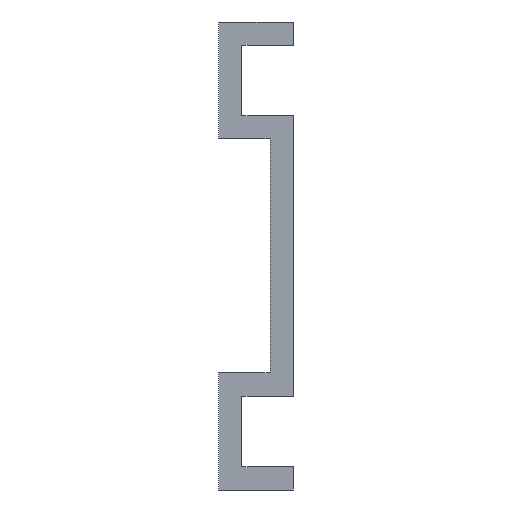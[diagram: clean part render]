
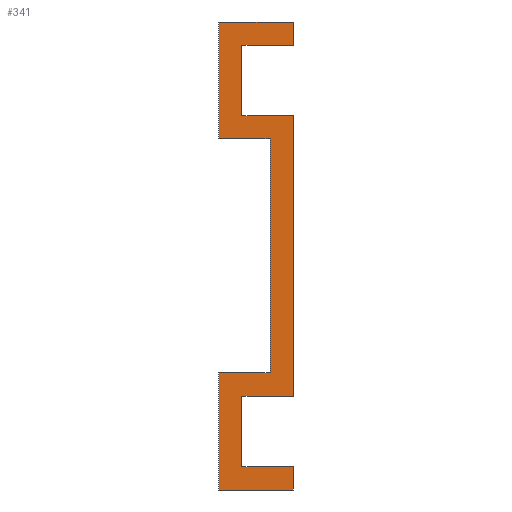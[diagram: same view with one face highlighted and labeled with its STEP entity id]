
A CAD part, left-side view. The second image highlights one B-rep face of the part: STEP entity #341.
In plain terms, the highlighted planar face has unit normal (-1, 0, 0).
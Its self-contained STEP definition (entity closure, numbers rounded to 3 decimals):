
#15=FACE_OUTER_BOUND('',#33,.T.);
#33=EDGE_LOOP('',(#227,#228,#229,#230,#231,#232,#233,#234,#235,#236,#237,
#238,#239,#240,#241,#242));
#51=LINE('',#490,#99);
#52=LINE('',#492,#100);
#53=LINE('',#494,#101);
#54=LINE('',#496,#102);
#55=LINE('',#498,#103);
#56=LINE('',#500,#104);
#57=LINE('',#502,#105);
#58=LINE('',#504,#106);
#59=LINE('',#506,#107);
#60=LINE('',#508,#108);
#61=LINE('',#510,#109);
#62=LINE('',#512,#110);
#63=LINE('',#514,#111);
#64=LINE('',#516,#112);
#65=LINE('',#518,#113);
#66=LINE('',#519,#114);
#99=VECTOR('',#404,10.);
#100=VECTOR('',#405,10.);
#101=VECTOR('',#406,10.);
#102=VECTOR('',#407,10.);
#103=VECTOR('',#408,10.);
#104=VECTOR('',#409,10.);
#105=VECTOR('',#410,10.);
#106=VECTOR('',#411,10.);
#107=VECTOR('',#412,10.);
#108=VECTOR('',#413,10.);
#109=VECTOR('',#414,10.);
#110=VECTOR('',#415,10.);
#111=VECTOR('',#416,10.);
#112=VECTOR('',#417,10.);
#113=VECTOR('',#418,10.);
#114=VECTOR('',#419,10.);
#147=VERTEX_POINT('',#488);
#148=VERTEX_POINT('',#489);
#149=VERTEX_POINT('',#491);
#150=VERTEX_POINT('',#493);
#151=VERTEX_POINT('',#495);
#152=VERTEX_POINT('',#497);
#153=VERTEX_POINT('',#499);
#154=VERTEX_POINT('',#501);
#155=VERTEX_POINT('',#503);
#156=VERTEX_POINT('',#505);
#157=VERTEX_POINT('',#507);
#158=VERTEX_POINT('',#509);
#159=VERTEX_POINT('',#511);
#160=VERTEX_POINT('',#513);
#161=VERTEX_POINT('',#515);
#162=VERTEX_POINT('',#517);
#179=EDGE_CURVE('',#147,#148,#51,.T.);
#180=EDGE_CURVE('',#148,#149,#52,.T.);
#181=EDGE_CURVE('',#149,#150,#53,.T.);
#182=EDGE_CURVE('',#150,#151,#54,.T.);
#183=EDGE_CURVE('',#151,#152,#55,.T.);
#184=EDGE_CURVE('',#152,#153,#56,.T.);
#185=EDGE_CURVE('',#153,#154,#57,.T.);
#186=EDGE_CURVE('',#154,#155,#58,.T.);
#187=EDGE_CURVE('',#155,#156,#59,.T.);
#188=EDGE_CURVE('',#156,#157,#60,.T.);
#189=EDGE_CURVE('',#157,#158,#61,.T.);
#190=EDGE_CURVE('',#158,#159,#62,.T.);
#191=EDGE_CURVE('',#159,#160,#63,.T.);
#192=EDGE_CURVE('',#160,#161,#64,.T.);
#193=EDGE_CURVE('',#161,#162,#65,.T.);
#194=EDGE_CURVE('',#162,#147,#66,.T.);
#227=ORIENTED_EDGE('',*,*,#179,.T.);
#228=ORIENTED_EDGE('',*,*,#180,.T.);
#229=ORIENTED_EDGE('',*,*,#181,.T.);
#230=ORIENTED_EDGE('',*,*,#182,.T.);
#231=ORIENTED_EDGE('',*,*,#183,.T.);
#232=ORIENTED_EDGE('',*,*,#184,.T.);
#233=ORIENTED_EDGE('',*,*,#185,.T.);
#234=ORIENTED_EDGE('',*,*,#186,.T.);
#235=ORIENTED_EDGE('',*,*,#187,.T.);
#236=ORIENTED_EDGE('',*,*,#188,.T.);
#237=ORIENTED_EDGE('',*,*,#189,.T.);
#238=ORIENTED_EDGE('',*,*,#190,.T.);
#239=ORIENTED_EDGE('',*,*,#191,.T.);
#240=ORIENTED_EDGE('',*,*,#192,.T.);
#241=ORIENTED_EDGE('',*,*,#193,.T.);
#242=ORIENTED_EDGE('',*,*,#194,.T.);
#323=PLANE('',#382);
#341=ADVANCED_FACE('',(#15),#323,.T.);
#382=AXIS2_PLACEMENT_3D('',#487,#402,#403);
#402=DIRECTION('center_axis',(-1.,0.,0.));
#403=DIRECTION('ref_axis',(0.,0.,1.));
#404=DIRECTION('',(0.,-1.,0.));
#405=DIRECTION('',(0.,0.,1.));
#406=DIRECTION('',(0.,1.,0.));
#407=DIRECTION('',(0.,0.,-1.));
#408=DIRECTION('',(0.,-1.,0.));
#409=DIRECTION('',(0.,0.,-1.));
#410=DIRECTION('',(0.,1.,0.));
#411=DIRECTION('',(0.,0.,-1.));
#412=DIRECTION('',(0.,-1.,0.));
#413=DIRECTION('',(0.,0.,1.));
#414=DIRECTION('',(0.,1.,0.));
#415=DIRECTION('',(0.,0.,1.));
#416=DIRECTION('',(0.,-1.,0.));
#417=DIRECTION('',(0.,0.,1.));
#418=DIRECTION('',(0.,1.,0.));
#419=DIRECTION('',(0.,0.,1.));
#487=CARTESIAN_POINT('Origin',(-2900.,0.,0.));
#488=CARTESIAN_POINT('',(-2900.,3.,45.));
#489=CARTESIAN_POINT('',(-2900.,-8.,45.));
#490=CARTESIAN_POINT('',(-2900.,-8.,45.));
#491=CARTESIAN_POINT('',(-2900.,-8.,50.));
#492=CARTESIAN_POINT('',(-2900.,-8.,50.));
#493=CARTESIAN_POINT('',(-2900.,8.,50.));
#494=CARTESIAN_POINT('',(-2900.,8.,50.));
#495=CARTESIAN_POINT('',(-2900.,8.,25.));
#496=CARTESIAN_POINT('',(-2900.,8.,25.));
#497=CARTESIAN_POINT('',(-2900.,-3.,25.));
#498=CARTESIAN_POINT('',(-2900.,-3.,25.));
#499=CARTESIAN_POINT('',(-2900.,-3.,-25.));
#500=CARTESIAN_POINT('',(-2900.,-3.,-25.));
#501=CARTESIAN_POINT('',(-2900.,8.,-25.));
#502=CARTESIAN_POINT('',(-2900.,8.,-25.));
#503=CARTESIAN_POINT('',(-2900.,8.,-50.));
#504=CARTESIAN_POINT('',(-2900.,8.,-50.));
#505=CARTESIAN_POINT('',(-2900.,-8.,-50.));
#506=CARTESIAN_POINT('',(-2900.,-8.,-50.));
#507=CARTESIAN_POINT('',(-2900.,-8.,-45.));
#508=CARTESIAN_POINT('',(-2900.,-8.,-45.));
#509=CARTESIAN_POINT('',(-2900.,3.,-45.));
#510=CARTESIAN_POINT('',(-2900.,3.,-45.));
#511=CARTESIAN_POINT('',(-2900.,3.,-30.));
#512=CARTESIAN_POINT('',(-2900.,3.,-30.));
#513=CARTESIAN_POINT('',(-2900.,-8.,-30.));
#514=CARTESIAN_POINT('',(-2900.,-8.,-30.));
#515=CARTESIAN_POINT('',(-2900.,-8.,30.));
#516=CARTESIAN_POINT('',(-2900.,-8.,30.));
#517=CARTESIAN_POINT('',(-2900.,3.,30.));
#518=CARTESIAN_POINT('',(-2900.,3.,30.));
#519=CARTESIAN_POINT('',(-2900.,3.,45.));
